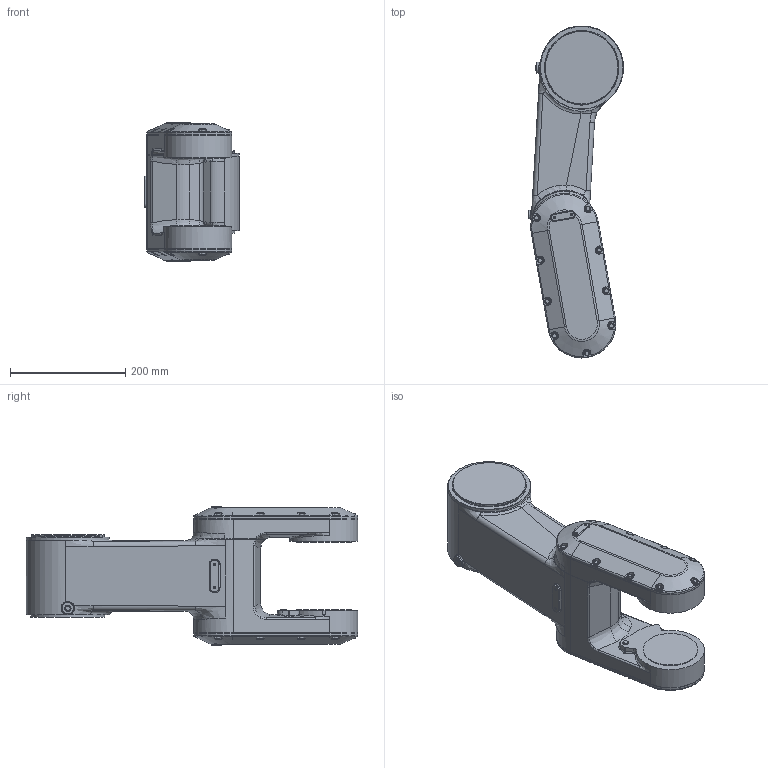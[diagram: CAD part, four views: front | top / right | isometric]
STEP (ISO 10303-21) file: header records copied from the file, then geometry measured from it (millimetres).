
FILE_DESCRIPTION (( 'STEP AP203' ), '1' );
FILE_NAME ('IRB1200GEN2_5kg-910_BTM_OC_00_Link02L_CAD.STEP', '2025-06-16T02:15:40', ( '' ), ( '' ), 'SwSTEP 2.0', 'SolidWorks 2022', '' );
FILE_SCHEMA (( 'CONFIG_CONTROL_DESIGN' ));
Products named in the file (1): IRB1200GEN2_5kg-910_BTM_OC_00_Link02L_CAD
Bounding box: 165 x 576.48 x 241 mm (x, y, z)
Volume: 8782551.7 mm3; surface area: 364336 mm2
Topology: 1 solids, 1 shells, 651 faces, 1503 edges, 900 vertices
Faces by surface type: bspline 230, cylinder 157, plane 154, torus 61, cone 49
Full cylindrical faces by diameter (mm): 3.3 x6, 7 x18, 9 x18, 9.9 x2, 10 x2, 95 x2, 118 x1, 129 x1
Entity records: 48850 total; most frequent: CARTESIAN_POINT 36204, ORIENTED_EDGE 2778, DIRECTION 2272, EDGE_CURVE 1389, AXIS2_PLACEMENT_3D 983, VERTEX_POINT 861, EDGE_LOOP 772, FACE_OUTER_BOUND 703
